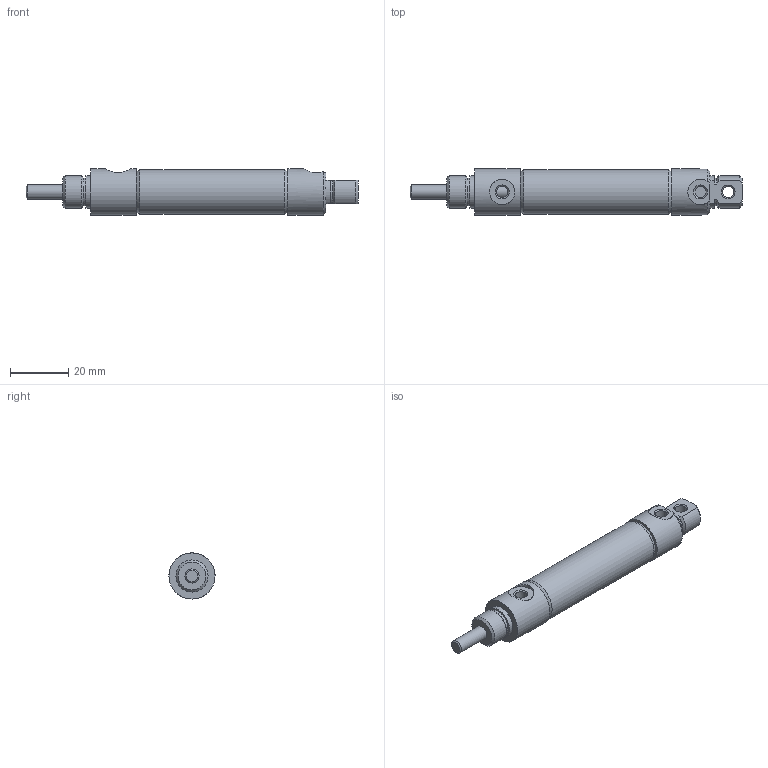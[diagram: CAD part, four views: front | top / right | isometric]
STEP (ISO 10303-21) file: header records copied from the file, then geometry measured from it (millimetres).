
FILE_DESCRIPTION( ( 'STEP AP214' ), '1' );
FILE_NAME( 'p:/temp/worker_453/temp/exporttempdir_5392_166_VkWT1/format_0/0563D02-01A-03.stp', '2020-05-07T13:41:16', ( 'License CC BY-ND 4.0' ), ( 'CADENAS' ), ' ', 'PARTsolutions', ' ' );
FILE_SCHEMA( ( 'AUTOMOTIVE_DESIGN { 1 0 10303 214 1 1 1 1 }' ) );
Length unit declared in the file: inch
Products named in the file (3): 0563D02-01A-03; _0563D02-01A-0300A00A0b; _0563D02-01A-0300A00A0r
Assembly tree (2 placements, depth 2):
  0563D02-01A-03
    _0563D02-01A-0300A00A0b
    _0563D02-01A-0300A00A0r
Bounding box: 114.33 x 15.88 x 15.88 mm (x, y, z)
Volume: 13371.8 mm3; surface area: 10650.4 mm2
Topology: 2 solids, 2 shells, 58 faces, 120 edges, 77 vertices
Faces by surface type: cylinder 22, plane 22, cone 14
Full cylindrical faces by diameter (mm): 3.967 x2, 3.988 x1, 4.775 x2, 4.826 x1, 8.738 x1, 9.601 x1, 11.1 x2, 14.287 x2, 15.392 x1, 15.875 x2
Entity records: 2087 total; most frequent: CARTESIAN_POINT 422, DIRECTION 253, ORIENTED_EDGE 186, AXIS2_PLACEMENT_3D 115, EDGE_LOOP 97, EDGE_CURVE 93, VERTEX_POINT 74, FACE_OUTER_BOUND 73
